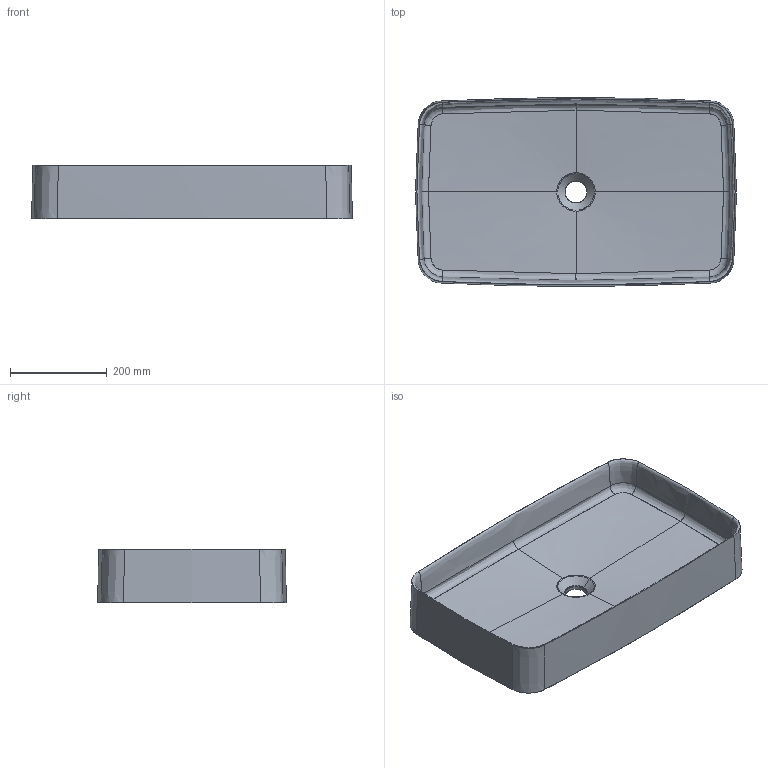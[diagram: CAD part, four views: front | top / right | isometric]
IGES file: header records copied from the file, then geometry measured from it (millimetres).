
Start section: START RECORD GO HERE.
Global section: file name: ART 7415 65x38 quadro.igs; native system: DASSAULT SYSTEMES CATIA V5 R19 - www.3ds.com; preprocessor: CATIA Version 5 Release 19 SP 5 ; author: Luca; organization: DESKTOP-V7SON24; date: 20181015.135538; units: millimetre
Bounding box: 661.76 x 389.58 x 110 mm (x, y, z)
Surface area: 868847.2 mm2 (no closed solid volume)
Topology: 0 solids, 0 shells, 155 faces, 698 edges, 698 vertices
Faces by surface type: bspline 151, plane 4
